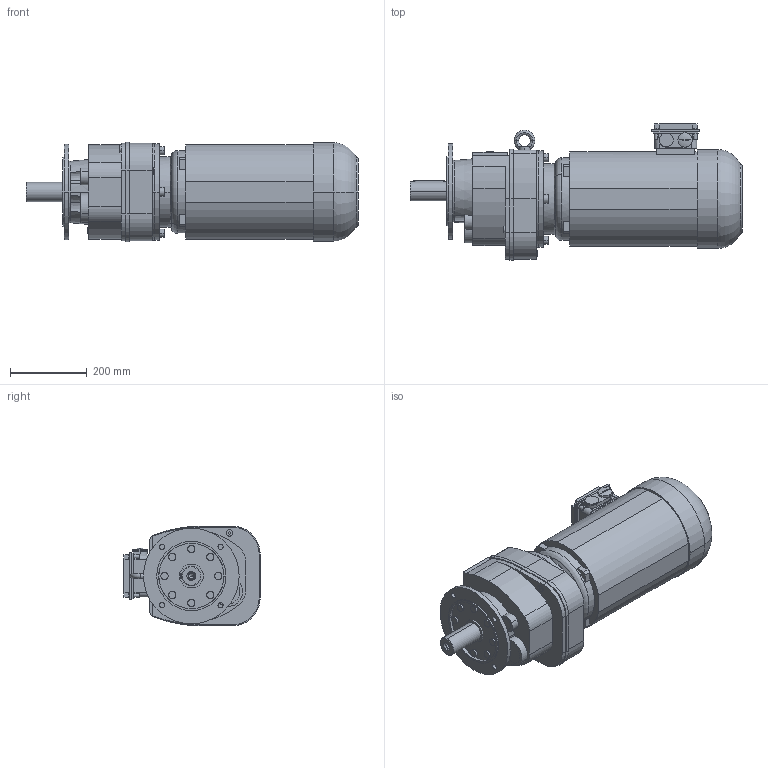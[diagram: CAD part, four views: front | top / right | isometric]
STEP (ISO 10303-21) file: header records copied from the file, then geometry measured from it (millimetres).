
FILE_DESCRIPTION(('STEP AP214'),'1');
FILE_NAME('STEP-File.stp','2018-01-01T00:00:00',(' '),('KEB'),' ','KEB-DRIVE',' ');
FILE_SCHEMA(('AUTOMOTIVE_DESIGN { 1 0 10303 214 1 1 1 1 }'));
Length unit declared in the file: millimetre
Products named in the file (10): g5b; w5_we_50x100; c5_250; ca5; dm132_kkn; kk10; PLUG_M32; SCREW-PLUG_M32; ndm132; G53C DM132MB4§CAD13
Assembly tree (9 placements, depth 2):
  G53C DM132MB4§CAD13
    g5b
    w5_we_50x100
    c5_250
    ca5
    dm132_kkn
    kk10
    PLUG_M32
    SCREW-PLUG_M32
    ndm132
Bounding box: 864 x 354.6 x 259 mm (x, y, z)
Volume: 37564449.2 mm3; surface area: 1257010.3 mm2
Topology: 9 solids, 9 shells, 353 faces, 868 edges, 573 vertices
Faces by surface type: plane 192, cylinder 118, cone 24, torus 19
Entity records: 11945 total; most frequent: CARTESIAN_POINT 3574, ORIENTED_EDGE 1732, DIRECTION 1589, EDGE_CURVE 866, VERTEX_POINT 573, AXIS2_PLACEMENT_3D 552, VECTOR 485, LINE 485
